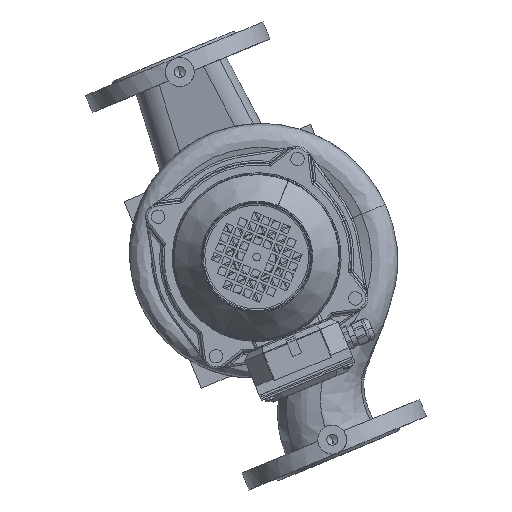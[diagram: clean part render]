
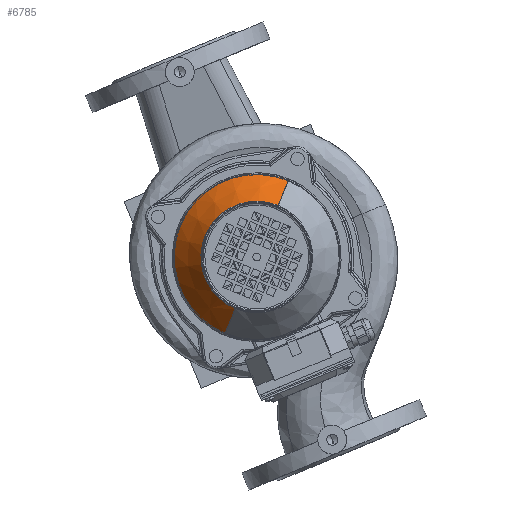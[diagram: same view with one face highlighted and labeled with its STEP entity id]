
A CAD part, top view. The second image highlights one B-rep face of the part: STEP entity #6785.
In plain terms, the highlighted conical face has half-angle 37 degrees and reference radius 58.108 mm.
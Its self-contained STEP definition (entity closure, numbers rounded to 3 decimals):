
#6785=ADVANCED_FACE('NONE',(#16748),#16749,.T.);
#16748=FACE_OUTER_BOUND('',#33370,.T.);
#16749=CONICAL_SURFACE('',#33371,58.108,0.646);
#33370=EDGE_LOOP('',(#50605,#50606,#50607,#50608));
#33371=AXIS2_PLACEMENT_3D('',#50609,#50610,#50611);
#50605=ORIENTED_EDGE('',*,*,#58893,.F.);
#50606=ORIENTED_EDGE('',*,*,#58891,.F.);
#50607=ORIENTED_EDGE('',*,*,#58894,.F.);
#50608=ORIENTED_EDGE('',*,*,#58895,.T.);
#50609=CARTESIAN_POINT('',(0.0,96.403,0.0));
#50610=DIRECTION('',(-0.0,-1.0,-0.0));
#50611=DIRECTION('',(0.0,0.0,-1.0));
#58891=EDGE_CURVE('NONE',#71693,#71695,#71696,.T.);
#58893=EDGE_CURVE('',#71695,#71698,#71699,.T.);
#58894=EDGE_CURVE('',#71700,#71693,#71701,.T.);
#58895=EDGE_CURVE('NONE',#71700,#71698,#71702,.T.);
#71693=VERTEX_POINT('',#94984);
#71695=VERTEX_POINT('NONE',#94986);
#71696=CIRCLE('',#94987,58.108);
#71698=VERTEX_POINT('NONE',#94989);
#71699=LINE('',#94990,#94991);
#71700=VERTEX_POINT('',#94992);
#71701=LINE('',#94993,#94994);
#71702=CIRCLE('',#94995,86.592);
#94984=CARTESIAN_POINT('',(0.,96.403,58.108));
#94986=CARTESIAN_POINT('',(0.,96.403,-58.108));
#94987=AXIS2_PLACEMENT_3D('',#105489,#105490,#105491);
#94989=CARTESIAN_POINT('',(0.0,58.603,-86.592));
#94990=CARTESIAN_POINT('',(0.,96.403,-58.108));
#94991=VECTOR('',#105495,1.0);
#94992=CARTESIAN_POINT('',(0.,58.603,86.592));
#94993=CARTESIAN_POINT('',(0.,96.403,58.108));
#94994=VECTOR('',#105496,1.0);
#94995=AXIS2_PLACEMENT_3D('',#105497,#105498,#105499);
#105489=CARTESIAN_POINT('',(0.0,96.403,0.0));
#105490=DIRECTION('',(-0.0,1.0,0.0));
#105491=DIRECTION('',(0.0,0.0,1.0));
#105495=DIRECTION('',(0.,-0.799,-0.602));
#105496=DIRECTION('',(0.,0.799,-0.602));
#105497=CARTESIAN_POINT('',(0.0,58.603,0.0));
#105498=DIRECTION('',(-0.0,1.0,0.0));
#105499=DIRECTION('',(0.0,0.0,1.0));
